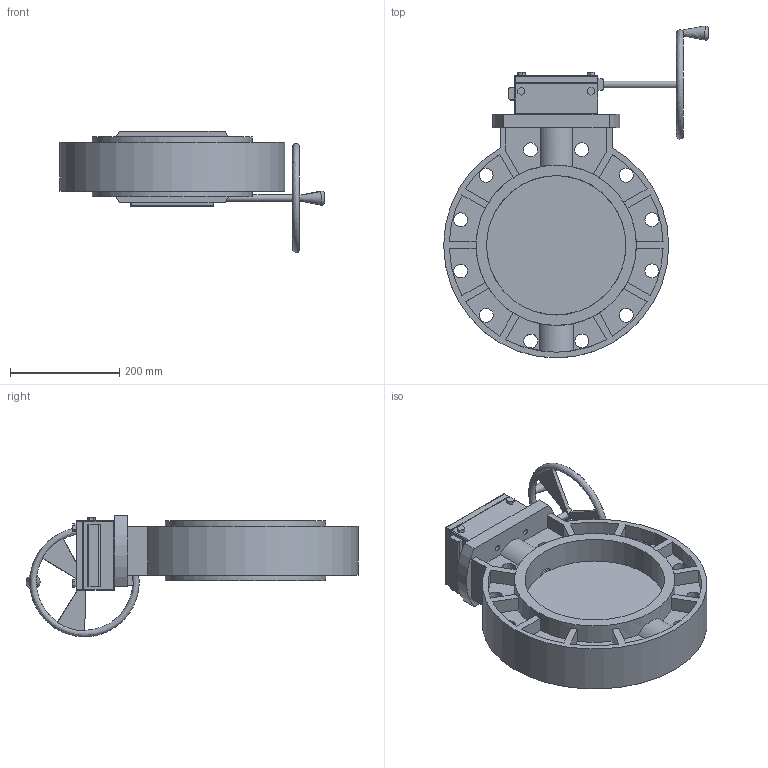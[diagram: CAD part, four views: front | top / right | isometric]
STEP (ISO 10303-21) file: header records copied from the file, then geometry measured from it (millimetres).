
FILE_DESCRIPTION (( 'STEP AP214' ), '1' );
FILE_NAME ('411 NG - 10 Inch-.step', '2020-12-08T12:05:51', ( '' ), ( '' ), 'SwSTEP 2.0', 'SolidWorks 2019', '' );
FILE_SCHEMA (( 'AUTOMOTIVE_DESIGN' ));
Length unit declared in the file: millimetre
Products named in the file (1): 411 NG - 10 Inch-
Bounding box: 483.49 x 606.59 x 222.03 mm (x, y, z)
Volume: 8058189.1 mm3; surface area: 931751 mm2
Topology: 11 solids, 11 shells, 272 faces, 723 edges, 464 vertices
Faces by surface type: plane 174, cylinder 83, sphere 12, bspline 3
Full cylindrical faces by diameter (mm): 9.906 x4, 12.7 x1, 19.05 x1, 25.4 x12, 28 x3, 254.762 x1, 292.862 x2
Entity records: 12914 total; most frequent: CARTESIAN_POINT 3141, DIRECTION 1388, ORIENTED_EDGE 1326, EDGE_CURVE 663, AXIS2_PLACEMENT_3D 480, VERTEX_POINT 443, VECTOR 428, LINE 428
